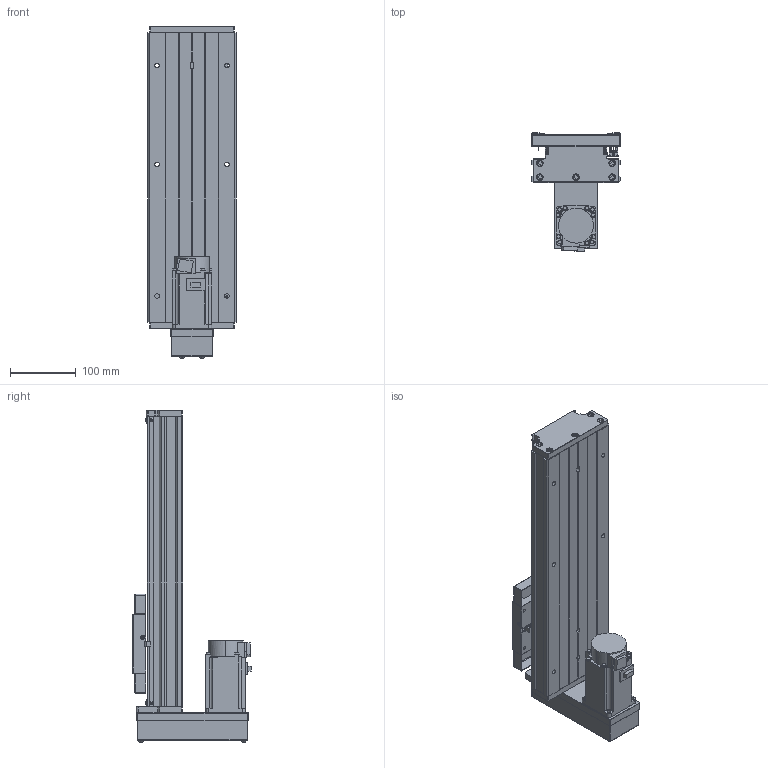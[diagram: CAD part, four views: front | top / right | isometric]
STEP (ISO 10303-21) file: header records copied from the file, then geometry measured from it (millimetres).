
FILE_DESCRIPTION (( 'STEP AP203' ), '1' );
FILE_NAME ('CTH130-250-BM-M40-C4.step', '2023-06-30T02:44:11', ( '微软用户' ), ( '微软中国' ), 'SwSTEP 2.0', 'SolidWorks 2020', '' );
FILE_SCHEMA (( 'CONFIG_CONTROL_DESIGN' ));
Length unit declared in the file: millimetre
Products named in the file (20): GTH14-001_250; CTHA60-017; す晦芛蹟隊 M3℅5; CTH130-002_GTH14-002; EE_SX911P_R; HG-KN43J-S100; GB T308.1-2013-6.35; CTHA60-016; GBT 70.2-M4¡Á35_M4¡Á35; GTH14-004; GBT 70.1-M3℅5; GTH14-015-2_CTHA86-015-2; GTH14-005; GBT77-2000 M3×3; GTH14-033; GB1155-6X6; CTH130-031; CTH130-250-BM-M40-C4; GBT70.1 M5℅16; GBT 70.2-M3¡Á5_M3¡Á6
Assembly tree (60 placements, depth 2):
  CTH130-250-BM-M40-C4
    GTH14-001_250
    CTH130-002_GTH14-002
    GB T308.1-2013-6.35  x2
    GTH14-004
    GTH14-005
    GB1155-6X6  x2
    GBT70.1 M5℅16  x10
    CTHA60-017  x3
    EE_SX911P_R  x3
    CTHA60-016  x2
    GBT 70.1-M3℅5  x6
    GBT77-2000 M3×3  x6
    CTH130-031
    GBT 70.2-M3¡Á5_M3¡Á6  x8
    す晦芛蹟隊 M3℅5  x6
    HG-KN43J-S100
    GBT 70.2-M4¡Á35_M4¡Á35  x4
    GTH14-015-2_CTHA86-015-2
    GTH14-033
Bounding box: 135 x 179.8 x 504.2 mm (x, y, z)
Volume: 2949832.7 mm3; surface area: 560800.4 mm2
Topology: 63 solids, 63 shells, 2415 faces, 5749 edges, 3553 vertices
Faces by surface type: plane 1306, cylinder 630, cone 299, torus 124, sphere 36, bspline 20
Entity records: 43308 total; most frequent: CARTESIAN_POINT 9747, DIRECTION 6282, ORIENTED_EDGE 6204, EDGE_CURVE 3102, AXIS2_PLACEMENT_3D 2132, VECTOR 2018, LINE 2018, VERTEX_POINT 1963
